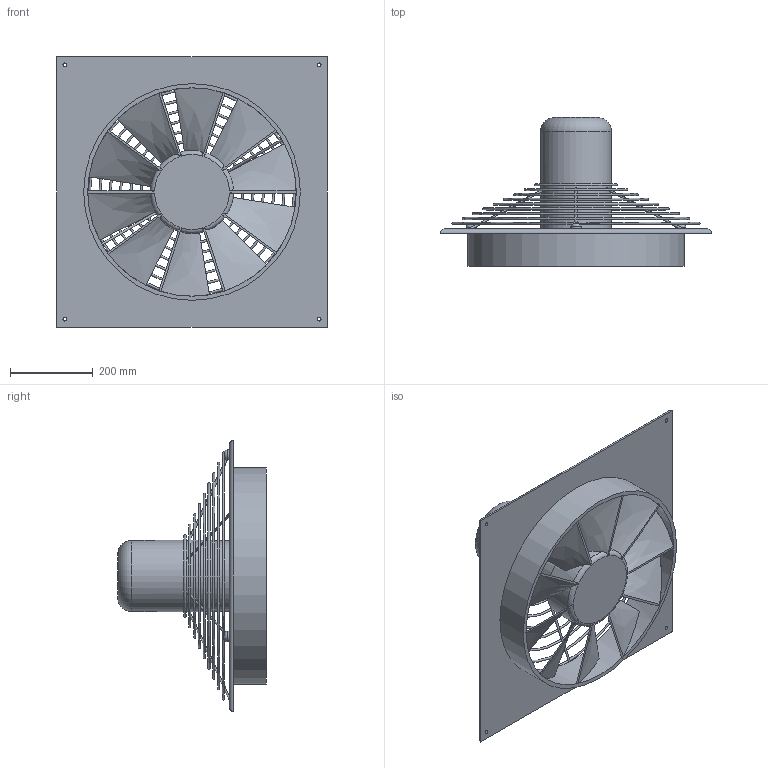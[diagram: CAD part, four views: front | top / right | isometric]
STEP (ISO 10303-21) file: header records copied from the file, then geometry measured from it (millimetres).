
FILE_DESCRIPTION(/* description */ (''),/* implementation_level */ '2;1');
FILE_NAME(/* name */ 'Z:\Output\HQW_500-6-01112-020.stp',/* time_stamp */ '2020-05-11T13:41:10+02:00',/* author */ ('pareshmistry'),/* organization */ (''),/* preprocessor_version */ 'ST-DEVELOPER v17.2',/* originating_system */ 'Autodesk Inventor 2019',/* authorisation */ '');
FILE_SCHEMA (('AUTOMOTIVE_DESIGN { 1 0 10303 214 3 1 1 }'));
Length unit declared in the file: millimetre
Products named in the file (1): HQW EC 450
Bounding box: 655 x 360 x 655 mm (x, y, z)
Volume: 13039920.9 mm3; surface area: 1504768.9 mm2
Topology: 9 solids, 9 shells, 98 faces, 333 edges, 216 vertices
Faces by surface type: bspline 33, cylinder 23, plane 22, torus 20
Full cylindrical faces by diameter (mm): 5 x6, 9 x4, 25 x3, 172 x1, 201 x1, 504 x1, 524 x1
Entity records: 5512 total; most frequent: CARTESIAN_POINT 2619, ORIENTED_EDGE 706, DIRECTION 475, EDGE_CURVE 353, VERTEX_POINT 216, AXIS2_PLACEMENT_3D 192, B_SPLINE_CURVE_WITH_KNOTS 133, EDGE_LOOP 124
